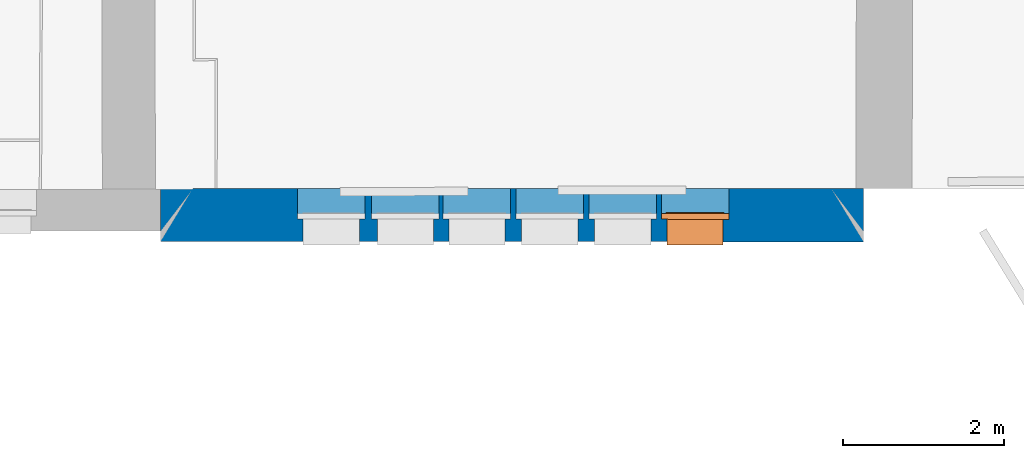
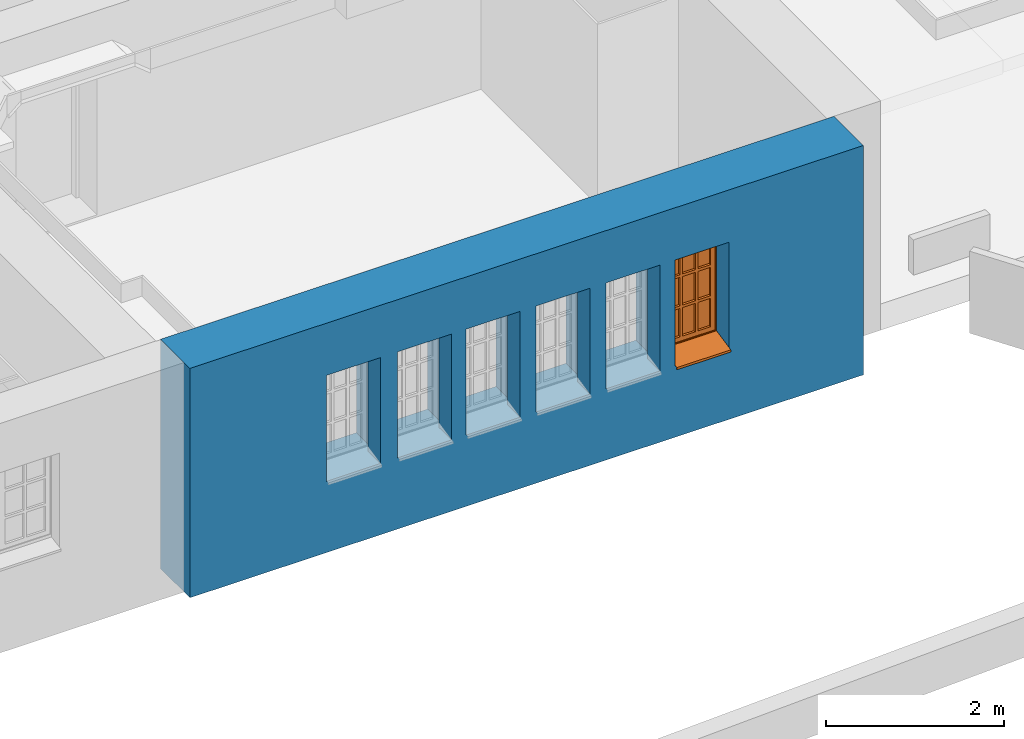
# One storey, part 79 of 196: 1 proxy, 1 wall, 6 openings.
"""IFC2X3 building model written with IfcOpenShell, lengths in metres."""

from ifc_helpers import new_model, entity, si_unit, converted_unit, derived_unit, money_unit, direction, frame, origin_with_axes, origin_2d_with_axis, place, context, subcontext, project, spatial, polyline, rectangle, outline, extrude, boolean, open_shell, faceted_brep, surface_model, material, type_object, element, fill, save


model = new_model("IFC2X3")

# Units and contexts
model_context = context("Model", 3, precision=1e-05, world=origin_with_axes(), true_north=direction((0.0, 1.0)))
body_context = subcontext(model_context, "Body", "Model", "MODEL_VIEW")
ifc_project = project(units=[si_unit("LENGTHUNIT", "METRE"), si_unit("AREAUNIT", "SQUARE_METRE"), si_unit("VOLUMEUNIT", "CUBIC_METRE"), converted_unit("PLANEANGLEUNIT", "DEGREE", entity("IfcPlaneAngleMeasure", 0.0174532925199), si_unit("PLANEANGLEUNIT", "RADIAN"), dimensions=[0, 0, 0, 0, 0, 0, 0]), money_unit("EUR"), converted_unit("TIMEUNIT", "Year", entity("IfcTimeMeasure", 31556926.0), si_unit("TIMEUNIT", "SECOND"), dimensions=[0, 0, 1, 0, 0, 0, 0]), si_unit("MASSUNIT", "GRAM", prefix="KILO"), si_unit("THERMODYNAMICTEMPERATUREUNIT", "DEGREE_CELSIUS"), si_unit("LUMINOUSINTENSITYUNIT", "LUMEN"), si_unit("ENERGYUNIT", "JOULE", prefix="MEGA"), derived_unit("THERMALCONDUCTANCEUNIT", [(si_unit("POWERUNIT", "WATT"), 1), (si_unit("LENGTHUNIT", "METRE"), -1), (si_unit("THERMODYNAMICTEMPERATUREUNIT", "KELVIN"), -1)]), derived_unit("SPECIFICHEATCAPACITYUNIT", [(si_unit("ENERGYUNIT", "JOULE"), 1), (si_unit("MASSUNIT", "GRAM", prefix="KILO"), -1), (si_unit("THERMODYNAMICTEMPERATUREUNIT", "KELVIN"), -1)]), derived_unit("MASSDENSITYUNIT", [(si_unit("MASSUNIT", "GRAM", prefix="KILO"), 1), (si_unit("VOLUMEUNIT", "CUBIC_METRE"), -1)])], contexts=[model_context])

# Site, building, storey
site_placement = place(None, origin_with_axes())
site = spatial("IfcSite", under=ifc_project, at=site_placement, Name="Gelände", CompositionType="ELEMENT")
building_placement = place(site_placement, origin_with_axes())
building = spatial("IfcBuilding", under=site, at=building_placement, Name="Gebäude", CompositionType="ELEMENT")
storey_placement = place(building_placement, frame((0.0, 0.0, -3.0), z_axis=(0.0, 0.0, 1.0), x_axis=(1.0, 0.0, 0.0)))
storey = spatial("IfcBuildingStorey", under=building, at=storey_placement, Name="KELLERGESCHOSS", CompositionType="ELEMENT", Elevation=-3.0)

# Wall, openings, proxy
ifc_material = material(Name="05_ALLGEMEIN - TRAGENDE BAUTEILE")
wall_type = type_object("IfcWallType", Name="05_ALLGEMEIN - TRAGENDE BAUTEILE 660", PredefinedType="ELEMENTEDWALL")
wall_placement = place(storey_placement, frame((3.68030708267, 9.80941916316, -0.36), z_axis=(0.0, 0.0, 1.0), x_axis=(0.999999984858, -0.000174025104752, 0.0)))
wall = element("IfcWall", 1, at=wall_placement, inside=storey, type_object=wall_type, material=ifc_material, Name="Wand-032", ObjectType="ELEMENTEDWALL", context=body_context, shape_type="CSG", body=[
    boolean("DIFFERENCE", extrude(outline(polyline([(0.0, 0.0), (8.74672447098, 0.0), (8.74672447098, 0.66), (0.0, 0.66), (0.0, 0.0)])), origin_with_axes(), (0.0, 0.0, 1.0), 3.15), faceted_brep([(8.36400803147, 0.66, 3.15), (8.36400803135, 0.66, 3.065), (8.74672447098, 0.66, 3.065), (8.74672447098, 0.66, 0.0), (0.0, 0.66, 0.0), (0.0, 0.66, 3.15), (0.396377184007, 0.651638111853, 3.15), (0.396377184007, 0.651638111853, 0.0), (8.3467354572, 0.659981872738, 0.0), (8.3467354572, 0.659981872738, 3.065), (8.74672447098, 0.0, 3.065), (8.74672447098, 0.0, 0.0), (0.0, 0.0, 0.0), (0.0, 0.0, 3.15)], [[[0, 1, 2, 3, 4, 5]], [[1, 0, 6, 7, 8, 9]], [[10, 2, 1, 9]], [[10, 11, 3, 2]], [[7, 12, 4, 3, 11, 8]], [[12, 13, 5, 4]], [[6, 0, 5, 13]], [[6, 13, 12, 7]], [[11, 10, 9, 8]]])),
])
opening_1_placement = place(wall_placement, frame((6.65087656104, 0.0, 0.977921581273), z_axis=(0.0, 0.0, 1.0), x_axis=(1.0, 0.0, 0.0)))
opening_1 = element("IfcOpeningElement", 2, at=opening_1_placement, cuts=wall, Name="Fenster-015", context=body_context, shape_type="SweptSolid", body=[
    extrude(rectangle(XDim=0.840207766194, YDim=1.52470991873, at=origin_2d_with_axis()), frame((0.0, 0.28, 0.762354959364), z_axis=(0.0, -1.0, 0.0), x_axis=(1.0, 0.0, 0.0)), (0.0, 0.0, -1.0), 1.04),
    extrude(rectangle(XDim=0.700207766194, YDim=1.45470991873, at=origin_2d_with_axis()), frame((0.0, 0.28, 0.727354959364), z_axis=(0.0, 1.0, 0.0), x_axis=(1.0, 0.0, 0.0)), (0.0, 0.0, -1.0), 0.94),
])
opening_2_placement = place(wall_placement, frame((5.75227144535, 0.0, 0.977921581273), z_axis=(0.0, 0.0, 1.0), x_axis=(1.0, 0.0, 0.0)))
element("IfcOpeningElement", 3, at=opening_2_placement, cuts=wall, Name="Fenster-015", context=body_context, shape_type="SweptSolid", body=[
    extrude(rectangle(XDim=0.840207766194, YDim=1.52470991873, at=origin_2d_with_axis()), frame((0.0, 0.28, 0.762354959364), z_axis=(0.0, -1.0, 0.0), x_axis=(1.0, 0.0, 0.0)), (0.0, 0.0, -1.0), 1.04),
    extrude(rectangle(XDim=0.700207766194, YDim=1.45470991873, at=origin_2d_with_axis()), frame((0.0, 0.28, 0.727354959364), z_axis=(0.0, 1.0, 0.0), x_axis=(1.0, 0.0, 0.0)), (0.0, 0.0, -1.0), 0.94),
])
opening_3_placement = place(wall_placement, frame((2.12414616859, 0.0, 0.977921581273), z_axis=(0.0, 0.0, 1.0), x_axis=(1.0, 0.0, 0.0)))
element("IfcOpeningElement", 4, at=opening_3_placement, cuts=wall, Name="Fenster-015", context=body_context, shape_type="SweptSolid", body=[
    extrude(rectangle(XDim=0.840207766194, YDim=1.52470991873, at=origin_2d_with_axis()), frame((0.0, 0.28, 0.762354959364), z_axis=(0.0, -1.0, 0.0), x_axis=(1.0, 0.0, 0.0)), (0.0, 0.0, -1.0), 1.04),
    extrude(rectangle(XDim=0.700207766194, YDim=1.45470991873, at=origin_2d_with_axis()), frame((0.0, 0.28, 0.727354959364), z_axis=(0.0, 1.0, 0.0), x_axis=(1.0, 0.0, 0.0)), (0.0, 0.0, -1.0), 0.94),
])
opening_4_placement = place(wall_placement, frame((3.04781651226, 0.0, 0.977921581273), z_axis=(0.0, 0.0, 1.0), x_axis=(1.0, 0.0, 0.0)))
element("IfcOpeningElement", 5, at=opening_4_placement, cuts=wall, Name="Fenster-015", context=body_context, shape_type="SweptSolid", body=[
    extrude(rectangle(XDim=0.840207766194, YDim=1.52470991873, at=origin_2d_with_axis()), frame((0.0, 0.28, 0.762354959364), z_axis=(0.0, -1.0, 0.0), x_axis=(1.0, 0.0, 0.0)), (0.0, 0.0, -1.0), 1.04),
    extrude(rectangle(XDim=0.700207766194, YDim=1.45470991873, at=origin_2d_with_axis()), frame((0.0, 0.28, 0.727354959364), z_axis=(0.0, 1.0, 0.0), x_axis=(1.0, 0.0, 0.0)), (0.0, 0.0, -1.0), 0.94),
])
opening_5_placement = place(wall_placement, frame((3.9368208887, 0.0, 0.977921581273), z_axis=(0.0, 0.0, 1.0), x_axis=(1.0, 0.0, 0.0)))
element("IfcOpeningElement", 6, at=opening_5_placement, cuts=wall, Name="Fenster-015", context=body_context, shape_type="SweptSolid", body=[
    extrude(rectangle(XDim=0.840207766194, YDim=1.52470991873, at=origin_2d_with_axis()), frame((0.0, 0.28, 0.762354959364), z_axis=(0.0, -1.0, 0.0), x_axis=(1.0, 0.0, 0.0)), (0.0, 0.0, -1.0), 1.04),
    extrude(rectangle(XDim=0.700207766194, YDim=1.45470991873, at=origin_2d_with_axis()), frame((0.0, 0.28, 0.727354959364), z_axis=(0.0, 1.0, 0.0), x_axis=(1.0, 0.0, 0.0)), (0.0, 0.0, -1.0), 0.94),
])
opening_6_placement = place(wall_placement, frame((4.8431156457, 0.0, 0.977921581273), z_axis=(0.0, 0.0, 1.0), x_axis=(1.0, 0.0, 0.0)))
element("IfcOpeningElement", 7, at=opening_6_placement, cuts=wall, Name="Fenster-015", context=body_context, shape_type="SweptSolid", body=[
    extrude(rectangle(XDim=0.840207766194, YDim=1.52470991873, at=origin_2d_with_axis()), frame((0.0, 0.28, 0.762354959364), z_axis=(0.0, -1.0, 0.0), x_axis=(1.0, 0.0, 0.0)), (0.0, 0.0, -1.0), 1.04),
    extrude(rectangle(XDim=0.700207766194, YDim=1.45470991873, at=origin_2d_with_axis()), frame((0.0, 0.28, 0.727354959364), z_axis=(0.0, 1.0, 0.0), x_axis=(1.0, 0.0, 0.0)), (0.0, 0.0, -1.0), 0.94),
])
building_element_proxy_type = type_object("IfcBuildingElementProxyType", Name="1-Flügelfenster 25", PredefinedType="NOTDEFINED")
proxy_placement = place(opening_1_placement, frame((-0.420103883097, 0.0, 0.0), z_axis=(0.0, 0.0, 1.0), x_axis=(1.0, 0.0, 0.0)))
proxy = element("IfcBuildingElementProxy", 8, at=proxy_placement, inside=storey, type_object=building_element_proxy_type, Name="Fenster-015", context=body_context, shape_type="SurfaceModel", body=[
    surface_model("IfcShellBasedSurfaceModel", [(0.07, 0.279, 0.08), (0.07, 0.279, 0.07), (0.770207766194, 0.279, 0.07), (0.770207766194, 0.279, 0.08), (0.07, -0.04, 0.00142857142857), (0.770207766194, -0.04, 0.00142857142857), (0.07, -0.04, -0.0285714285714), (0.770207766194, -0.04, -0.0285714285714), (0.07, -0.025, -0.0135714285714), (0.770207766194, -0.025, -0.0135714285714)], [open_shell([[[0, 1, 2, 3]], [[1, 4, 5, 2]], [[4, 6, 7, 5]], [[6, 8, 9, 7]]])]),
    faceted_brep([(0.07, 0.28, 0.0689771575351), (0.07, 0.0, 0.00878906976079), (0.770207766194, 0.0, 0.00878906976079), (0.770207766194, 0.28, 0.0689771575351), (0.07, 0.28, 0.0), (0.07, 0.0, 0.0), (0.770207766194, 0.0, 0.0), (0.770207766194, 0.28, 0.0)], [[[0, 1, 2, 3]], [[0, 4, 5, 1]], [[1, 5, 6, 2]], [[3, 2, 6, 7]], [[4, 0, 3, 7]], [[5, 4, 7, 6]]]),
    faceted_brep([(0.0, 0.28, 0.0), (0.0, 0.35, 0.0), (0.08, 0.35, 0.08), (0.08, 0.28, 0.08), (0.0, 0.28, 1.52470991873), (0.0, 0.35, 1.52470991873), (0.08, 0.35, 1.44470991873), (0.08, 0.28, 1.44470991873)], [[[0, 1, 2, 3]], [[4, 5, 1, 0]], [[1, 5, 6, 2]], [[3, 2, 6, 7]], [[0, 3, 7, 4]], [[7, 6, 5, 4]]]),
    faceted_brep([(0.840207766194, 0.28, 0.0), (0.840207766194, 0.35, 0.0), (0.840207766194, 0.35, 1.52470991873), (0.840207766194, 0.28, 1.52470991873), (0.760207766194, 0.28, 0.08), (0.760207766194, 0.35, 0.08), (0.760207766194, 0.35, 1.44470991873), (0.760207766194, 0.28, 1.44470991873)], [[[0, 1, 2, 3]], [[4, 5, 1, 0]], [[1, 5, 6, 2]], [[3, 2, 6, 7]], [[0, 3, 7, 4]], [[7, 6, 5, 4]]]),
    faceted_brep([(0.0, 0.28, 0.0), (0.0, 0.35, 0.0), (0.840207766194, 0.35, 0.0), (0.840207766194, 0.28, 0.0), (0.08, 0.28, 0.08), (0.08, 0.35, 0.08), (0.420103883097, 0.35, 0.08), (0.760207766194, 0.35, 0.08), (0.760207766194, 0.28, 0.08), (0.420103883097, 0.28, 0.08)], [[[0, 1, 2, 3]], [[4, 5, 1, 0]], [[1, 5, 6, 7, 2]], [[3, 2, 7, 8]], [[0, 3, 8, 9, 4]], [[9, 6, 5, 4]], [[8, 7, 6, 9]]]),
    faceted_brep([(0.0, 0.28, 1.52470991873), (0.0, 0.35, 1.52470991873), (0.08, 0.35, 1.44470991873), (0.08, 0.28, 1.44470991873), (0.840207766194, 0.28, 1.52470991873), (0.840207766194, 0.35, 1.52470991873), (0.760207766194, 0.35, 1.44470991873), (0.420103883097, 0.35, 1.44470991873), (0.420103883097, 0.28, 1.44470991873), (0.760207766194, 0.28, 1.44470991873)], [[[0, 1, 2, 3]], [[4, 5, 1, 0]], [[1, 5, 6, 7, 2]], [[3, 2, 7, 8]], [[0, 3, 8, 9, 4]], [[9, 6, 5, 4]], [[8, 7, 6, 9]]]),
    faceted_brep([(0.06, 0.35, 0.06), (0.06, 0.363, 0.06), (0.14, 0.363, 0.14), (0.14, 0.35, 0.14), (0.06, 0.35, 1.46470991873), (0.06, 0.363, 1.46470991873), (0.14, 0.363, 1.38470991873), (0.14, 0.35, 1.38470991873)], [[[0, 1, 2, 3]], [[4, 5, 1, 0]], [[1, 5, 6, 2]], [[3, 2, 6, 7]], [[0, 3, 7, 4]], [[7, 6, 5, 4]]]),
    faceted_brep([(0.780207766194, 0.35, 0.06), (0.700207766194, 0.35, 0.14), (0.700207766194, 0.363, 0.14), (0.780207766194, 0.363, 0.06), (0.780207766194, 0.35, 1.46470991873), (0.700207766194, 0.35, 1.38470991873), (0.700207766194, 0.363, 1.38470991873), (0.780207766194, 0.363, 1.46470991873)], [[[0, 1, 2, 3]], [[0, 4, 5, 1]], [[1, 5, 6, 2]], [[3, 2, 6, 7]], [[4, 0, 3, 7]], [[5, 4, 7, 6]]]),
    faceted_brep([(0.06, 0.35, 0.06), (0.06, 0.363, 0.06), (0.780207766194, 0.363, 0.06), (0.780207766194, 0.35, 0.06), (0.14, 0.35, 0.14), (0.14, 0.363, 0.14), (0.700207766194, 0.363, 0.14), (0.700207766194, 0.35, 0.14)], [[[0, 1, 2, 3]], [[4, 5, 1, 0]], [[1, 5, 6, 2]], [[3, 2, 6, 7]], [[0, 3, 7, 4]], [[7, 6, 5, 4]]]),
    faceted_brep([(0.06, 0.35, 1.46470991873), (0.780207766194, 0.35, 1.46470991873), (0.780207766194, 0.363, 1.46470991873), (0.06, 0.363, 1.46470991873), (0.14, 0.35, 1.38470991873), (0.700207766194, 0.35, 1.38470991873), (0.700207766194, 0.363, 1.38470991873), (0.14, 0.363, 1.38470991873)], [[[0, 1, 2, 3]], [[0, 4, 5, 1]], [[1, 5, 6, 2]], [[3, 2, 6, 7]], [[4, 0, 3, 7]], [[5, 4, 7, 6]]]),
    faceted_brep([(0.08, 0.293, 0.08), (0.08, 0.35, 0.08), (0.14, 0.35, 0.14), (0.14, 0.293, 0.14), (0.08, 0.293, 1.44470991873), (0.08, 0.35, 1.44470991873), (0.14, 0.35, 1.38470991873), (0.14, 0.293, 1.38470991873)], [[[0, 1, 2, 3]], [[4, 5, 1, 0]], [[1, 5, 6, 2]], [[3, 2, 6, 7]], [[0, 3, 7, 4]], [[7, 6, 5, 4]]]),
    faceted_brep([(0.760207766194, 0.293, 0.08), (0.700207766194, 0.293, 0.14), (0.700207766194, 0.35, 0.14), (0.760207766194, 0.35, 0.08), (0.760207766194, 0.293, 1.44470991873), (0.700207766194, 0.293, 1.38470991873), (0.700207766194, 0.35, 1.38470991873), (0.760207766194, 0.35, 1.44470991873)], [[[0, 1, 2, 3]], [[0, 4, 5, 1]], [[1, 5, 6, 2]], [[3, 2, 6, 7]], [[4, 0, 3, 7]], [[5, 4, 7, 6]]]),
    faceted_brep([(0.08, 0.293, 0.08), (0.08, 0.35, 0.08), (0.760207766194, 0.35, 0.08), (0.760207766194, 0.293, 0.08), (0.14, 0.293, 0.14), (0.14, 0.35, 0.14), (0.700207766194, 0.35, 0.14), (0.700207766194, 0.293, 0.14)], [[[0, 1, 2, 3]], [[4, 5, 1, 0]], [[1, 5, 6, 2]], [[3, 2, 6, 7]], [[0, 3, 7, 4]], [[7, 6, 5, 4]]]),
    faceted_brep([(0.08, 0.293, 1.44470991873), (0.760207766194, 0.293, 1.44470991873), (0.760207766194, 0.35, 1.44470991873), (0.08, 0.35, 1.44470991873), (0.14, 0.293, 1.38470991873), (0.700207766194, 0.293, 1.38470991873), (0.700207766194, 0.35, 1.38470991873), (0.14, 0.35, 1.38470991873)], [[[0, 1, 2, 3]], [[0, 4, 5, 1]], [[1, 5, 6, 2]], [[3, 2, 6, 7]], [[4, 0, 3, 7]], [[5, 4, 7, 6]]]),
    faceted_brep([(0.303402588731, 0.293, 0.14), (0.303402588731, 0.328, 0.14), (0.338402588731, 0.328, 0.14), (0.338402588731, 0.293, 0.14), (0.303402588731, 0.293, 1.38470991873), (0.303402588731, 0.328, 1.38470991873), (0.338402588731, 0.328, 1.38470991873), (0.338402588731, 0.293, 1.38470991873)], [[[0, 1, 2, 3]], [[4, 5, 1, 0]], [[1, 5, 6, 2]], [[3, 2, 6, 7]], [[0, 3, 7, 4]], [[7, 6, 5, 4]]]),
    faceted_brep([(0.303402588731, 0.328, 0.14), (0.303402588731, 0.363, 0.14), (0.338402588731, 0.363, 0.14), (0.338402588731, 0.328, 0.14), (0.303402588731, 0.328, 1.38470991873), (0.303402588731, 0.363, 1.38470991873), (0.338402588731, 0.363, 1.38470991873), (0.338402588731, 0.328, 1.38470991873)], [[[0, 1, 2, 3]], [[4, 5, 1, 0]], [[1, 5, 6, 2]], [[3, 2, 6, 7]], [[0, 3, 7, 4]], [[7, 6, 5, 4]]]),
    faceted_brep([(0.501805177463, 0.293, 0.14), (0.501805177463, 0.328, 0.14), (0.536805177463, 0.328, 0.14), (0.536805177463, 0.293, 0.14), (0.501805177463, 0.293, 1.38470991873), (0.501805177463, 0.328, 1.38470991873), (0.536805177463, 0.328, 1.38470991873), (0.536805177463, 0.293, 1.38470991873)], [[[0, 1, 2, 3]], [[4, 5, 1, 0]], [[1, 5, 6, 2]], [[3, 2, 6, 7]], [[0, 3, 7, 4]], [[7, 6, 5, 4]]]),
    faceted_brep([(0.501805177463, 0.328, 0.14), (0.501805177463, 0.363, 0.14), (0.536805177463, 0.363, 0.14), (0.536805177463, 0.328, 0.14), (0.501805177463, 0.328, 1.38470991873), (0.501805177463, 0.363, 1.38470991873), (0.536805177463, 0.363, 1.38470991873), (0.536805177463, 0.328, 1.38470991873)], [[[0, 1, 2, 3]], [[4, 5, 1, 0]], [[1, 5, 6, 2]], [[3, 2, 6, 7]], [[0, 3, 7, 4]], [[7, 6, 5, 4]]]),
    faceted_brep([(0.501805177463, 0.293, 0.531569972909), (0.501805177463, 0.293, 0.566569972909), (0.338402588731, 0.293, 0.566569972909), (0.338402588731, 0.293, 0.531569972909), (0.501805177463, 0.328, 0.566569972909), (0.501805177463, 0.328, 0.531569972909), (0.338402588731, 0.328, 0.566569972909), (0.338402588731, 0.328, 0.531569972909)], [[[0, 1, 2, 3]], [[4, 1, 0, 5]], [[1, 4, 6, 2]], [[2, 6, 7, 3]], [[5, 0, 3, 7]], [[4, 5, 7, 6]]]),
    faceted_brep([(0.14, 0.293, 0.566569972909), (0.14, 0.293, 0.531569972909), (0.303402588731, 0.293, 0.531569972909), (0.303402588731, 0.293, 0.566569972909), (0.14, 0.328, 0.566569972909), (0.14, 0.328, 0.531569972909), (0.303402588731, 0.328, 0.531569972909), (0.303402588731, 0.328, 0.566569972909)], [[[0, 1, 2, 3]], [[1, 0, 4, 5]], [[1, 5, 6, 2]], [[2, 6, 7, 3]], [[4, 0, 3, 7]], [[5, 4, 7, 6]]]),
    faceted_brep([(0.536805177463, 0.328, 0.566569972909), (0.536805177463, 0.293, 0.566569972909), (0.700207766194, 0.293, 0.566569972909), (0.700207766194, 0.328, 0.566569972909), (0.536805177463, 0.293, 0.531569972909), (0.536805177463, 0.328, 0.531569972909), (0.700207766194, 0.293, 0.531569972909), (0.700207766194, 0.328, 0.531569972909)], [[[0, 1, 2, 3]], [[4, 1, 0, 5]], [[1, 4, 6, 2]], [[3, 2, 6, 7]], [[5, 0, 3, 7]], [[4, 5, 7, 6]]]),
    faceted_brep([(0.501805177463, 0.328, 0.531569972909), (0.501805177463, 0.328, 0.566569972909), (0.338402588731, 0.328, 0.566569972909), (0.338402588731, 0.328, 0.531569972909), (0.501805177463, 0.363, 0.566569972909), (0.501805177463, 0.363, 0.531569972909), (0.338402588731, 0.363, 0.566569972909), (0.338402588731, 0.363, 0.531569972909)], [[[0, 1, 2, 3]], [[4, 1, 0, 5]], [[1, 4, 6, 2]], [[2, 6, 7, 3]], [[5, 0, 3, 7]], [[4, 5, 7, 6]]]),
    faceted_brep([(0.14, 0.328, 0.566569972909), (0.14, 0.328, 0.531569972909), (0.303402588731, 0.328, 0.531569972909), (0.303402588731, 0.328, 0.566569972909), (0.14, 0.363, 0.566569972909), (0.14, 0.363, 0.531569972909), (0.303402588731, 0.363, 0.531569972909), (0.303402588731, 0.363, 0.566569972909)], [[[0, 1, 2, 3]], [[1, 0, 4, 5]], [[1, 5, 6, 2]], [[2, 6, 7, 3]], [[4, 0, 3, 7]], [[5, 4, 7, 6]]]),
    faceted_brep([(0.536805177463, 0.363, 0.566569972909), (0.536805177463, 0.328, 0.566569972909), (0.700207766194, 0.328, 0.566569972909), (0.700207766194, 0.363, 0.566569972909), (0.536805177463, 0.328, 0.531569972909), (0.536805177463, 0.363, 0.531569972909), (0.700207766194, 0.328, 0.531569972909), (0.700207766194, 0.363, 0.531569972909)], [[[0, 1, 2, 3]], [[4, 1, 0, 5]], [[1, 4, 6, 2]], [[3, 2, 6, 7]], [[5, 0, 3, 7]], [[4, 5, 7, 6]]]),
    faceted_brep([(0.501805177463, 0.293, 0.958139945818), (0.501805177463, 0.293, 0.993139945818), (0.338402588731, 0.293, 0.993139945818), (0.338402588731, 0.293, 0.958139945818), (0.501805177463, 0.328, 0.993139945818), (0.501805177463, 0.328, 0.958139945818), (0.338402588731, 0.328, 0.993139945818), (0.338402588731, 0.328, 0.958139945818)], [[[0, 1, 2, 3]], [[4, 1, 0, 5]], [[1, 4, 6, 2]], [[2, 6, 7, 3]], [[5, 0, 3, 7]], [[4, 5, 7, 6]]]),
    faceted_brep([(0.14, 0.293, 0.993139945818), (0.14, 0.293, 0.958139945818), (0.303402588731, 0.293, 0.958139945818), (0.303402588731, 0.293, 0.993139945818), (0.14, 0.328, 0.993139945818), (0.14, 0.328, 0.958139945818), (0.303402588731, 0.328, 0.958139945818), (0.303402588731, 0.328, 0.993139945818)], [[[0, 1, 2, 3]], [[1, 0, 4, 5]], [[1, 5, 6, 2]], [[2, 6, 7, 3]], [[4, 0, 3, 7]], [[5, 4, 7, 6]]]),
    faceted_brep([(0.536805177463, 0.328, 0.993139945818), (0.536805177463, 0.293, 0.993139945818), (0.700207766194, 0.293, 0.993139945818), (0.700207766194, 0.328, 0.993139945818), (0.536805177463, 0.293, 0.958139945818), (0.536805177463, 0.328, 0.958139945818), (0.700207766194, 0.293, 0.958139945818), (0.700207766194, 0.328, 0.958139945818)], [[[0, 1, 2, 3]], [[4, 1, 0, 5]], [[1, 4, 6, 2]], [[3, 2, 6, 7]], [[5, 0, 3, 7]], [[4, 5, 7, 6]]]),
    faceted_brep([(0.501805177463, 0.328, 0.958139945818), (0.501805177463, 0.328, 0.993139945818), (0.338402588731, 0.328, 0.993139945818), (0.338402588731, 0.328, 0.958139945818), (0.501805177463, 0.363, 0.993139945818), (0.501805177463, 0.363, 0.958139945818), (0.338402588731, 0.363, 0.993139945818), (0.338402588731, 0.363, 0.958139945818)], [[[0, 1, 2, 3]], [[4, 1, 0, 5]], [[1, 4, 6, 2]], [[2, 6, 7, 3]], [[5, 0, 3, 7]], [[4, 5, 7, 6]]]),
    faceted_brep([(0.14, 0.328, 0.993139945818), (0.14, 0.328, 0.958139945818), (0.303402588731, 0.328, 0.958139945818), (0.303402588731, 0.328, 0.993139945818), (0.14, 0.363, 0.993139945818), (0.14, 0.363, 0.958139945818), (0.303402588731, 0.363, 0.958139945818), (0.303402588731, 0.363, 0.993139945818)], [[[0, 1, 2, 3]], [[1, 0, 4, 5]], [[1, 5, 6, 2]], [[2, 6, 7, 3]], [[4, 0, 3, 7]], [[5, 4, 7, 6]]]),
    faceted_brep([(0.536805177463, 0.363, 0.993139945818), (0.536805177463, 0.328, 0.993139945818), (0.700207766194, 0.328, 0.993139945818), (0.700207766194, 0.363, 0.993139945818), (0.536805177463, 0.328, 0.958139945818), (0.536805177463, 0.363, 0.958139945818), (0.700207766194, 0.328, 0.958139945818), (0.700207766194, 0.363, 0.958139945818)], [[[0, 1, 2, 3]], [[4, 1, 0, 5]], [[1, 4, 6, 2]], [[3, 2, 6, 7]], [[5, 0, 3, 7]], [[4, 5, 7, 6]]]),
    faceted_brep([(0.303402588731, 0.333, 0.958139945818), (0.303402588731, 0.323, 0.958139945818), (0.303402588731, 0.323, 0.566569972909), (0.303402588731, 0.333, 0.566569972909), (0.14, 0.323, 0.958139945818), (0.14, 0.333, 0.958139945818), (0.14, 0.323, 0.566569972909), (0.14, 0.333, 0.566569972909)], [[[0, 1, 2, 3]], [[4, 1, 0, 5]], [[1, 4, 6, 2]], [[2, 6, 7, 3]], [[5, 0, 3, 7]], [[4, 5, 7, 6]]]),
    faceted_brep([(0.700207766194, 0.323, 0.14), (0.700207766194, 0.333, 0.14), (0.700207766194, 0.333, 0.531569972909), (0.700207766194, 0.323, 0.531569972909), (0.536805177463, 0.323, 0.14), (0.536805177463, 0.333, 0.14), (0.536805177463, 0.333, 0.531569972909), (0.536805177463, 0.323, 0.531569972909)], [[[0, 1, 2, 3]], [[0, 4, 5, 1]], [[1, 5, 6, 2]], [[2, 6, 7, 3]], [[4, 0, 3, 7]], [[5, 4, 7, 6]]]),
    faceted_brep([(0.501805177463, 0.323, 0.14), (0.501805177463, 0.333, 0.14), (0.501805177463, 0.333, 0.531569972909), (0.501805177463, 0.323, 0.531569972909), (0.338402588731, 0.333, 0.14), (0.338402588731, 0.323, 0.14), (0.338402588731, 0.333, 0.531569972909), (0.338402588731, 0.323, 0.531569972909)], [[[0, 1, 2, 3]], [[4, 1, 0, 5]], [[1, 4, 6, 2]], [[2, 6, 7, 3]], [[5, 0, 3, 7]], [[4, 5, 7, 6]]]),
    faceted_brep([(0.303402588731, 0.323, 0.14), (0.303402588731, 0.333, 0.14), (0.303402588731, 0.333, 0.531569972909), (0.303402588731, 0.323, 0.531569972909), (0.14, 0.323, 0.14), (0.14, 0.333, 0.14), (0.14, 0.333, 0.531569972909), (0.14, 0.323, 0.531569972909)], [[[0, 1, 2, 3]], [[0, 4, 5, 1]], [[1, 5, 6, 2]], [[2, 6, 7, 3]], [[4, 0, 3, 7]], [[5, 4, 7, 6]]]),
    faceted_brep([(0.700207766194, 0.333, 0.958139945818), (0.700207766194, 0.323, 0.958139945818), (0.700207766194, 0.323, 0.566569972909), (0.700207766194, 0.333, 0.566569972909), (0.536805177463, 0.323, 0.958139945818), (0.536805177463, 0.333, 0.958139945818), (0.536805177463, 0.323, 0.566569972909), (0.536805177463, 0.333, 0.566569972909)], [[[0, 1, 2, 3]], [[4, 1, 0, 5]], [[1, 4, 6, 2]], [[2, 6, 7, 3]], [[5, 0, 3, 7]], [[4, 5, 7, 6]]]),
    faceted_brep([(0.501805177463, 0.333, 0.958139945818), (0.501805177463, 0.323, 0.958139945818), (0.501805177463, 0.323, 0.566569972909), (0.501805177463, 0.333, 0.566569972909), (0.338402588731, 0.323, 0.958139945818), (0.338402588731, 0.333, 0.958139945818), (0.338402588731, 0.323, 0.566569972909), (0.338402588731, 0.333, 0.566569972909)], [[[0, 1, 2, 3]], [[4, 1, 0, 5]], [[1, 4, 6, 2]], [[2, 6, 7, 3]], [[5, 0, 3, 7]], [[4, 5, 7, 6]]]),
    faceted_brep([(0.14, 0.323, 0.993139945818), (0.303402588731, 0.323, 0.993139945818), (0.303402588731, 0.323, 1.38470991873), (0.14, 0.323, 1.38470991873), (0.303402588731, 0.333, 0.993139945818), (0.14, 0.333, 0.993139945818), (0.303402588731, 0.333, 1.38470991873), (0.14, 0.333, 1.38470991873)], [[[0, 1, 2, 3]], [[4, 1, 0, 5]], [[1, 4, 6, 2]], [[2, 6, 7, 3]], [[5, 0, 3, 7]], [[4, 5, 7, 6]]]),
    faceted_brep([(0.536805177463, 0.323, 0.993139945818), (0.700207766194, 0.323, 0.993139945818), (0.700207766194, 0.323, 1.38470991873), (0.536805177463, 0.323, 1.38470991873), (0.700207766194, 0.333, 0.993139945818), (0.536805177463, 0.333, 0.993139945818), (0.700207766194, 0.333, 1.38470991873), (0.536805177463, 0.333, 1.38470991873)], [[[0, 1, 2, 3]], [[4, 1, 0, 5]], [[1, 4, 6, 2]], [[2, 6, 7, 3]], [[5, 0, 3, 7]], [[4, 5, 7, 6]]]),
    faceted_brep([(0.338402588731, 0.323, 0.993139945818), (0.501805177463, 0.323, 0.993139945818), (0.501805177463, 0.323, 1.38470991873), (0.338402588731, 0.323, 1.38470991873), (0.501805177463, 0.333, 0.993139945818), (0.338402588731, 0.333, 0.993139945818), (0.501805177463, 0.333, 1.38470991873), (0.338402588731, 0.333, 1.38470991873)], [[[0, 1, 2, 3]], [[4, 1, 0, 5]], [[1, 4, 6, 2]], [[7, 3, 2, 6]], [[5, 0, 3, 7]], [[4, 5, 7, 6]]]),
])
fill(opening_1, proxy)

save(model, "model.ifc")
